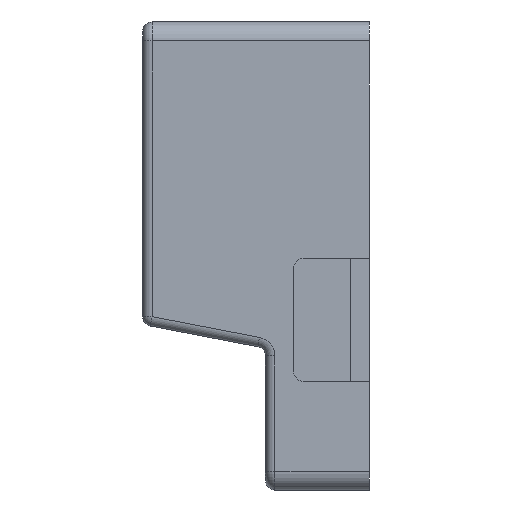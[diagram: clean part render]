
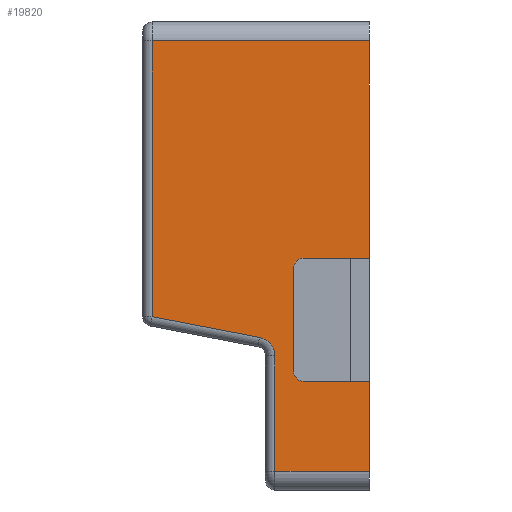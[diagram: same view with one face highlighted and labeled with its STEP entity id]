
A CAD part, left-side view. The second image highlights one B-rep face of the part: STEP entity #19820.
In plain terms, the highlighted planar face has unit normal (-1, 0, 0).
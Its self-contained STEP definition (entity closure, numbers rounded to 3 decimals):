
#98 = DIRECTION ( 'NONE',  ( -1., 0., 0. ) ) ;
#519 = ORIENTED_EDGE ( 'NONE', *, *, #17779, .T. ) ;
#602 = CARTESIAN_POINT ( 'NONE',  ( -55., -2., 22.75 ) ) ;
#650 = CARTESIAN_POINT ( 'NONE',  ( -55., 0., -13.25 ) ) ;
#937 = CARTESIAN_POINT ( 'NONE',  ( -55., 5., -1.25 ) ) ;
#1200 = CARTESIAN_POINT ( 'NONE',  ( -55., 8.811, -8.768 ) ) ;
#1381 = EDGE_CURVE ( 'NONE', #13227, #3536, #11703, .T. ) ;
#1458 = ORIENTED_EDGE ( 'NONE', *, *, #13610, .T. ) ;
#1782 = ORIENTED_EDGE ( 'NONE', *, *, #23935, .T. ) ;
#1788 = LINE ( 'NONE', #21415, #3383 ) ;
#1833 = VECTOR ( 'NONE', #21597, 1000. ) ;
#1861 = DIRECTION ( 'NONE',  ( 0., 0., -1. ) ) ;
#2151 = DIRECTION ( 'NONE',  ( 0., 0., -1. ) ) ;
#2162 = ORIENTED_EDGE ( 'NONE', *, *, #11464, .T. ) ;
#2630 = LINE ( 'NONE', #650, #16444 ) ;
#2757 = DIRECTION ( 'NONE',  ( 0., -1., 0. ) ) ;
#2863 = DIRECTION ( 'NONE',  ( 1., 0., 0. ) ) ;
#3126 = CARTESIAN_POINT ( 'NONE',  ( -55., 5., -12.25 ) ) ;
#3231 = EDGE_CURVE ( 'NONE', #11370, #9587, #16185, .T. ) ;
#3294 = CARTESIAN_POINT ( 'NONE',  ( -55., -2., 0. ) ) ;
#3383 = VECTOR ( 'NONE', #5347, 1000. ) ;
#3423 = DIRECTION ( 'NONE',  ( 0., 0., -1. ) ) ;
#3536 = VERTEX_POINT ( 'NONE', #7613 ) ;
#3826 = CARTESIAN_POINT ( 'NONE',  ( -55., 0., 0. ) ) ;
#4073 = ORIENTED_EDGE ( 'NONE', *, *, #8686, .T. ) ;
#5347 = DIRECTION ( 'NONE',  ( 0., 1., 0. ) ) ;
#5471 = DIRECTION ( 'NONE',  ( 0., 0., -1. ) ) ;
#5801 = CIRCLE ( 'NONE', #20526, 2. ) ;
#5802 = FACE_OUTER_BOUND ( 'NONE', #20758, .T. ) ;
#5815 = DIRECTION ( 'NONE',  ( 0., 1., 0. ) ) ;
#5943 = LINE ( 'NONE', #19523, #23487 ) ;
#6329 = CARTESIAN_POINT ( 'NONE',  ( -55., 8., -10.576 ) ) ;
#6377 = CARTESIAN_POINT ( 'NONE',  ( -55., -2., -22.75 ) ) ;
#7155 = CARTESIAN_POINT ( 'NONE',  ( -55., 5., -13.25 ) ) ;
#7387 = DIRECTION ( 'NONE',  ( 1., 0., 0. ) ) ;
#7393 = CARTESIAN_POINT ( 'NONE',  ( -55., 21., 22.75 ) ) ;
#7475 = LINE ( 'NONE', #15508, #25939 ) ;
#7613 = CARTESIAN_POINT ( 'NONE',  ( -55., -2., -0.25 ) ) ;
#7773 = CARTESIAN_POINT ( 'NONE',  ( -55., 6., -12.25 ) ) ;
#7780 = ORIENTED_EDGE ( 'NONE', *, *, #16579, .F. ) ;
#8294 = EDGE_CURVE ( 'NONE', #16153, #17304, #11522, .T. ) ;
#8458 = CARTESIAN_POINT ( 'NONE',  ( -55., -2., -13.25 ) ) ;
#8582 = ORIENTED_EDGE ( 'NONE', *, *, #22683, .F. ) ;
#8614 = CARTESIAN_POINT ( 'NONE',  ( -55., 8., -22.75 ) ) ;
#8666 = CARTESIAN_POINT ( 'NONE',  ( -55., 8., -22.75 ) ) ;
#8686 = EDGE_CURVE ( 'NONE', #18836, #16558, #19629, .T. ) ;
#8705 = VERTEX_POINT ( 'NONE', #7393 ) ;
#8781 = DIRECTION ( 'NONE',  ( 0., 0., -1. ) ) ;
#8898 = ORIENTED_EDGE ( 'NONE', *, *, #3231, .T. ) ;
#9587 = VERTEX_POINT ( 'NONE', #8614 ) ;
#9622 = CARTESIAN_POINT ( 'NONE',  ( -55., 5., -0.25 ) ) ;
#9702 = CARTESIAN_POINT ( 'NONE',  ( -55., 10., -10.576 ) ) ;
#10001 = VECTOR ( 'NONE', #3423, 1000. ) ;
#10348 = ORIENTED_EDGE ( 'NONE', *, *, #12728, .F. ) ;
#10357 = VERTEX_POINT ( 'NONE', #7155 ) ;
#10512 = DIRECTION ( 'NONE',  ( 0., 0., -1. ) ) ;
#10566 = CARTESIAN_POINT ( 'NONE',  ( -55., 21., -7.25 ) ) ;
#11370 = VERTEX_POINT ( 'NONE', #6329 ) ;
#11464 = EDGE_CURVE ( 'NONE', #17944, #19853, #23072, .T. ) ;
#11522 = LINE ( 'NONE', #24384, #24491 ) ;
#11594 = PLANE ( 'NONE',  #14795 ) ;
#11703 = LINE ( 'NONE', #3294, #10001 ) ;
#12551 = AXIS2_PLACEMENT_3D ( 'NONE', #937, #7387, #21467 ) ;
#12728 = EDGE_CURVE ( 'NONE', #11370, #16558, #5801, .T. ) ;
#13227 = VERTEX_POINT ( 'NONE', #602 ) ;
#13289 = ORIENTED_EDGE ( 'NONE', *, *, #21874, .T. ) ;
#13314 = ORIENTED_EDGE ( 'NONE', *, *, #8294, .F. ) ;
#13610 = EDGE_CURVE ( 'NONE', #13227, #8705, #5943, .T. ) ;
#14262 = LINE ( 'NONE', #10566, #16461 ) ;
#14419 = DIRECTION ( 'NONE',  ( 0., -1., 0. ) ) ;
#14795 = AXIS2_PLACEMENT_3D ( 'NONE', #3826, #19765, #1861 ) ;
#14947 = VERTEX_POINT ( 'NONE', #7773 ) ;
#15506 = CARTESIAN_POINT ( 'NONE',  ( -55., 6., -1.25 ) ) ;
#15508 = CARTESIAN_POINT ( 'NONE',  ( -55., 6., -13.25 ) ) ;
#16153 = VERTEX_POINT ( 'NONE', #8458 ) ;
#16185 = LINE ( 'NONE', #8666, #20433 ) ;
#16387 = ORIENTED_EDGE ( 'NONE', *, *, #1381, .F. ) ;
#16444 = VECTOR ( 'NONE', #2757, 1000. ) ;
#16461 = VECTOR ( 'NONE', #2151, 1000. ) ;
#16558 = VERTEX_POINT ( 'NONE', #18687 ) ;
#16579 = EDGE_CURVE ( 'NONE', #10357, #16153, #2630, .T. ) ;
#16590 = CARTESIAN_POINT ( 'NONE',  ( -55., -2., -22.75 ) ) ;
#17140 = CARTESIAN_POINT ( 'NONE',  ( -55., 21., -6.424 ) ) ;
#17304 = VERTEX_POINT ( 'NONE', #16590 ) ;
#17746 = DIRECTION ( 'NONE',  ( 0., 0., -1. ) ) ;
#17779 = EDGE_CURVE ( 'NONE', #10357, #14947, #21526, .T. ) ;
#17944 = VERTEX_POINT ( 'NONE', #15506 ) ;
#18687 = CARTESIAN_POINT ( 'NONE',  ( -55., 9.622, -8.612 ) ) ;
#18836 = VERTEX_POINT ( 'NONE', #17140 ) ;
#19523 = CARTESIAN_POINT ( 'NONE',  ( -55., 22., 22.75 ) ) ;
#19629 = LINE ( 'NONE', #1200, #1833 ) ;
#19765 = DIRECTION ( 'NONE',  ( 1., 0., 0. ) ) ;
#19820 = ADVANCED_FACE ( 'NONE', ( #5802 ), #11594, .F. ) ;
#19853 = VERTEX_POINT ( 'NONE', #9622 ) ;
#20433 = VECTOR ( 'NONE', #10512, 1000. ) ;
#20526 = AXIS2_PLACEMENT_3D ( 'NONE', #9702, #98, #17746 ) ;
#20758 = EDGE_LOOP ( 'NONE', ( #10348, #8898, #13289, #13314, #7780, #519, #25075, #2162, #8582, #16387, #1458, #1782, #4073 ) ) ;
#21415 = CARTESIAN_POINT ( 'NONE',  ( -55., 0., -0.25 ) ) ;
#21467 = DIRECTION ( 'NONE',  ( 0., 0., -1. ) ) ;
#21526 = CIRCLE ( 'NONE', #24896, 1. ) ;
#21597 = DIRECTION ( 'NONE',  ( 0., -0.982, -0.189 ) ) ;
#21874 = EDGE_CURVE ( 'NONE', #9587, #17304, #24423, .T. ) ;
#22683 = EDGE_CURVE ( 'NONE', #3536, #19853, #1788, .T. ) ;
#23072 = CIRCLE ( 'NONE', #12551, 1. ) ;
#23402 = DIRECTION ( 'NONE',  ( 0., 0., -1. ) ) ;
#23487 = VECTOR ( 'NONE', #5815, 1000. ) ;
#23935 = EDGE_CURVE ( 'NONE', #8705, #18836, #14262, .T. ) ;
#24015 = VECTOR ( 'NONE', #14419, 1000. ) ;
#24384 = CARTESIAN_POINT ( 'NONE',  ( -55., -2., 0. ) ) ;
#24423 = LINE ( 'NONE', #6377, #24015 ) ;
#24491 = VECTOR ( 'NONE', #5471, 1000. ) ;
#24896 = AXIS2_PLACEMENT_3D ( 'NONE', #3126, #2863, #8781 ) ;
#25018 = EDGE_CURVE ( 'NONE', #17944, #14947, #7475, .T. ) ;
#25075 = ORIENTED_EDGE ( 'NONE', *, *, #25018, .F. ) ;
#25939 = VECTOR ( 'NONE', #23402, 1000. ) ;
